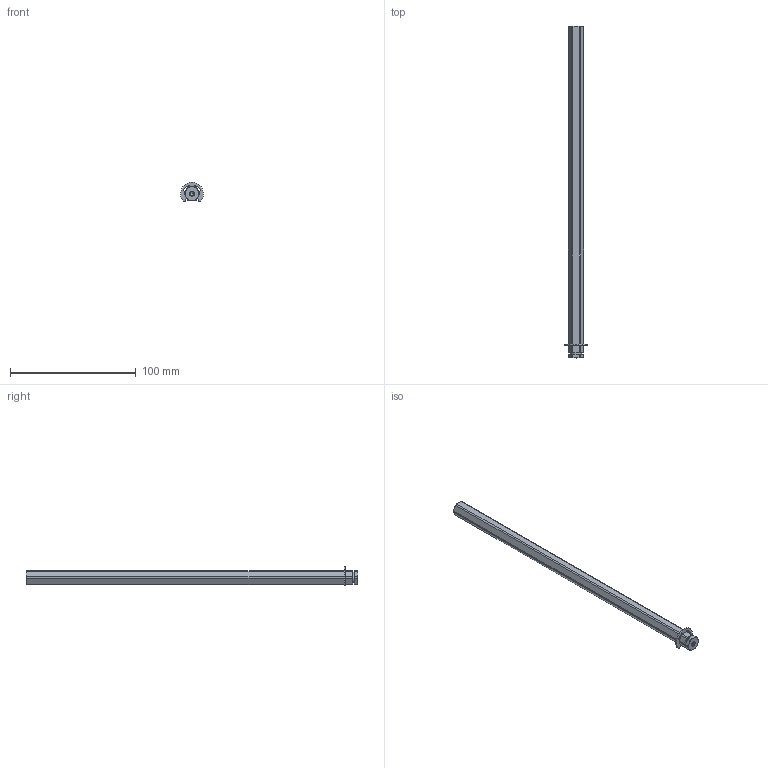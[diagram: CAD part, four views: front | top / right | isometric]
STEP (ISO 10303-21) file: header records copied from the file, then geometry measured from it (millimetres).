
FILE_DESCRIPTION(/* description */ (''),/* implementation_level */ '2;1');
FILE_NAME(/* name */ '2109-4012-2640.step',/* time_stamp */ '2026-06-23T16:22:10-05:00',/* author */ (''),/* organization */ (''),/* preprocessor_version */ 'ST-DEVELOPER v20.1',/* originating_system */ 'Autodesk Translation Framework v15.8.0.0',/* authorisation */ '');
FILE_SCHEMA (('AUTOMOTIVE_DESIGN { 1 0 10303 214 3 1 1 }'));
Length unit declared in the file: millimetre
Products named in the file (2): 2109-4012-2640 (Slot 1); 2824-0002-0091
Assembly tree (1 placements, depth 2):
  2109-4012-2640 (Slot 1)
    2824-0002-0091
Bounding box: 17.97 x 264 x 15.35 mm (x, y, z)
Volume: 27044.6 mm3; surface area: 10849 mm2
Topology: 2 solids, 2 shells, 164 faces, 456 edges, 300 vertices
Faces by surface type: cylinder 110, plane 34, cone 16, bspline 4
Full cylindrical faces by diameter (mm): 3.3 x34, 4 x32, 9 x2
Entity records: 14176 total; most frequent: CARTESIAN_POINT 10207, ORIENTED_EDGE 908, DIRECTION 706, EDGE_CURVE 454, VERTEX_POINT 300, AXIS2_PLACEMENT_3D 267, LINE 172, VECTOR 172
